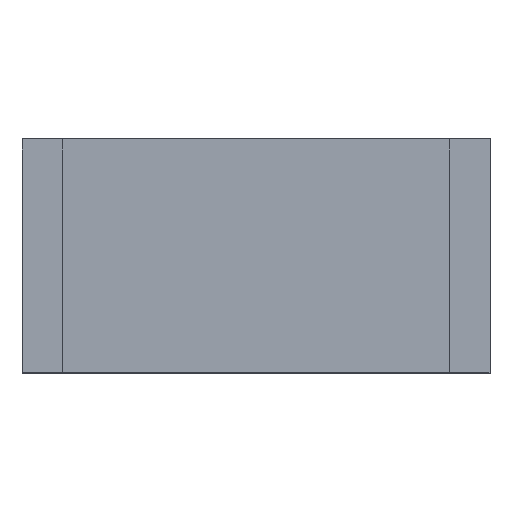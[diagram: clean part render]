
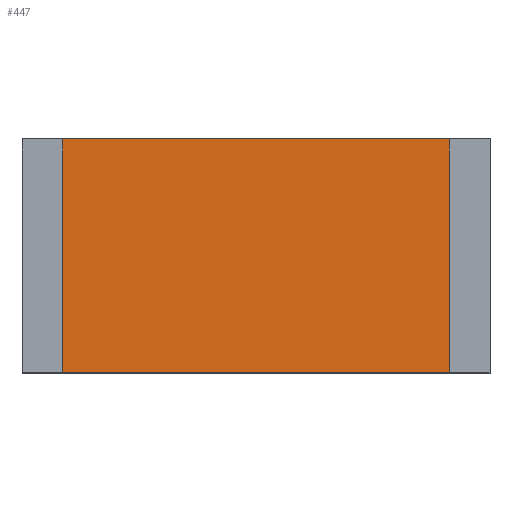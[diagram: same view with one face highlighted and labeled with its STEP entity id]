
A CAD part, top view. The second image highlights one B-rep face of the part: STEP entity #447.
In plain terms, the highlighted planar face has unit normal (0, 0, 1).
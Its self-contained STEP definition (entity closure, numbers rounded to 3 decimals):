
#29=FACE_OUTER_BOUND('',#55,.T.);
#55=EDGE_LOOP('',(#339,#340,#341,#342));
#95=LINE('',#679,#155);
#96=LINE('',#681,#156);
#97=LINE('',#683,#157);
#98=LINE('',#684,#158);
#155=VECTOR('',#559,10.);
#156=VECTOR('',#560,10.);
#157=VECTOR('',#561,10.);
#158=VECTOR('',#562,10.);
#207=VERTEX_POINT('',#677);
#208=VERTEX_POINT('',#678);
#209=VERTEX_POINT('',#680);
#210=VERTEX_POINT('',#682);
#255=EDGE_CURVE('',#207,#208,#95,.T.);
#256=EDGE_CURVE('',#208,#209,#96,.T.);
#257=EDGE_CURVE('',#209,#210,#97,.T.);
#258=EDGE_CURVE('',#210,#207,#98,.T.);
#339=ORIENTED_EDGE('',*,*,#255,.T.);
#340=ORIENTED_EDGE('',*,*,#256,.T.);
#341=ORIENTED_EDGE('',*,*,#257,.T.);
#342=ORIENTED_EDGE('',*,*,#258,.T.);
#421=PLANE('',#495);
#447=ADVANCED_FACE('',(#29),#421,.T.);
#495=AXIS2_PLACEMENT_3D('',#676,#557,#558);
#557=DIRECTION('center_axis',(0.,0.,1.));
#558=DIRECTION('ref_axis',(1.,0.,0.));
#559=DIRECTION('',(-1.,0.,0.));
#560=DIRECTION('',(0.,-1.,0.));
#561=DIRECTION('',(1.,0.,0.));
#562=DIRECTION('',(0.,1.,0.));
#676=CARTESIAN_POINT('Origin',(2.535,-0.001,0.555));
#677=CARTESIAN_POINT('',(5.07,2.54,0.555));
#678=CARTESIAN_POINT('',(0.,2.54,0.555));
#679=CARTESIAN_POINT('',(5.07,2.54,0.555));
#680=CARTESIAN_POINT('',(0.,0.,0.555));
#681=CARTESIAN_POINT('',(0.,2.54,0.555));
#682=CARTESIAN_POINT('',(5.07,0.,0.555));
#683=CARTESIAN_POINT('',(0.,0.,0.555));
#684=CARTESIAN_POINT('',(5.07,0.,0.555));
